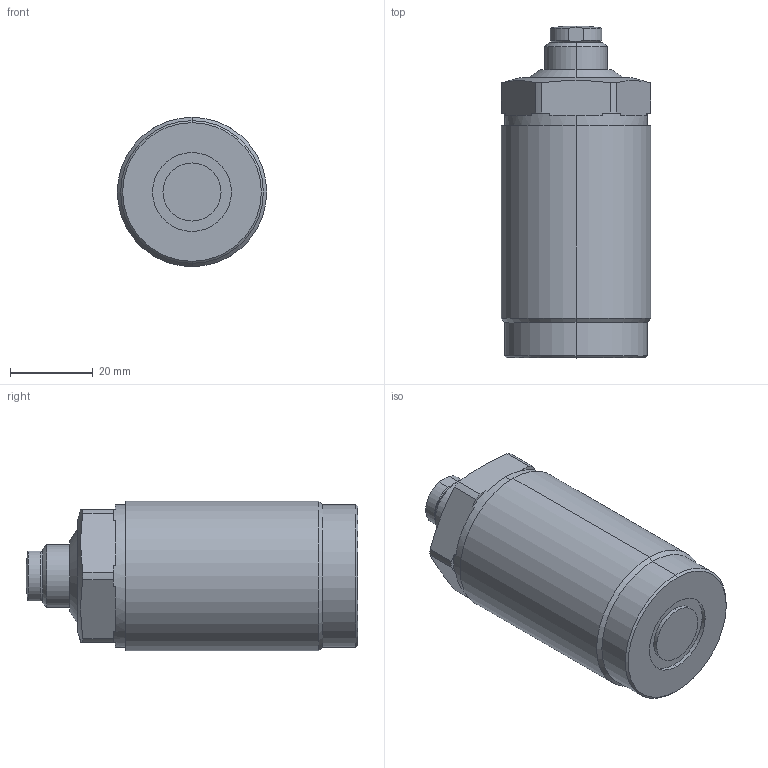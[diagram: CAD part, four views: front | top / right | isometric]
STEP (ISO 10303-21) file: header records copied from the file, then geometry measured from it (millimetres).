
FILE_DESCRIPTION (( 'STEP AP203' ), '1' );
FILE_NAME ('TW09-M362 Work support.SLDPRT.STEP', '2022-07-09T17:15:30', ( '' ), ( '' ), 'SwSTEP 2.0', 'SolidWorks 2017', '' );
FILE_SCHEMA (( 'CONFIG_CONTROL_DESIGN' ));
Length unit declared in the file: millimetre
Products named in the file (4): TW09-M362 part-1; TW09-M362 part-2; TW09-M362 part-3; TW09-M362 Work support.SLDPRT
Assembly tree (3 placements, depth 2):
  TW09-M362 Work support.SLDPRT
    TW09-M362 part-1
    TW09-M362 part-2
    TW09-M362 part-3
Bounding box: 36 x 80 x 36 mm (x, y, z)
Volume: 74445.7 mm3; surface area: 13197.5 mm2
Topology: 3 solids, 3 shells, 265 faces, 686 edges, 450 vertices
Faces by surface type: plane 131, bspline 77, cylinder 30, cone 25, torus 2
Entity records: 12386 total; most frequent: CARTESIAN_POINT 6108, ORIENTED_EDGE 1364, DIRECTION 933, EDGE_CURVE 682, VERTEX_POINT 450, LINE 361, VECTOR 361, EDGE_LOOP 292
